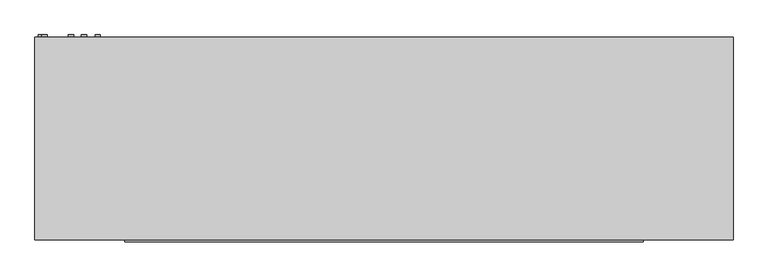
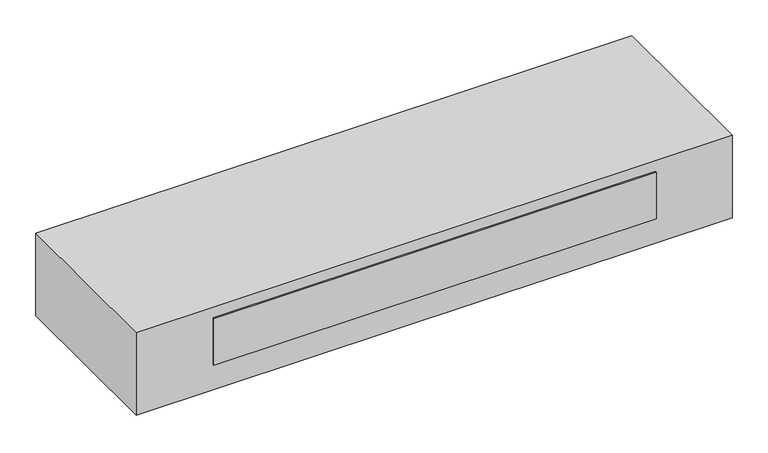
"""IFC4 building model written with IfcOpenShell, lengths in millimetres: proxy geometry, Exposed_Horizontal_Fan_Coil_Unit_-_42CGB_-_CARRIER_-_4-Pipe_FS-BR_LH_2022 : Size 12 - 277v/60Hz/1Ph - 4/1 Coil."""

from ifc_helpers import new_model, si_unit, point, frame, frame_2d, origin, place, context, project, spatial, polyline, circle_curve, trimmed, segment, composite_curve, outline, extrude, source, transform, mapped, element, save


def mechanical_equipment_ee9fbc93(model_context):
    return source(origin(), model_context, "Body", "SweptSolid", [
        extrude(outline(composite_curve([segment(trimmed(circle_curve(frame_2d((-261.434158, -870.1546393)), 9.525), [point((-261.434158, -860.6296393))], [point((-261.434158, -879.6796393))], False, "CARTESIAN"), True, "CONTINUOUS"), segment(trimmed(circle_curve(frame_2d((-261.434158, -870.1546393)), 9.525), [point((-261.434158, -879.6796393))], [point((-261.434158, -860.6296393))], False, "CARTESIAN"), True, "CONTINUOUS")], self_intersect=False)), frame((0.0, 65.0875, 0.0), z_axis=(0.0, 1.0, 0.0), x_axis=(0.0, 0.0, 1.0)), (0.0, 0.0, 1.0), 6.35),
        extrude(outline(composite_curve([segment(trimmed(circle_curve(frame_2d((-85.725, -860.425)), 7.9375), [point((-85.725, -852.4875))], [point((-85.725, -868.3625))], False, "CARTESIAN"), True, "CONTINUOUS"), segment(trimmed(circle_curve(frame_2d((-85.725, -860.425)), 7.9375), [point((-85.725, -868.3625))], [point((-85.725, -852.4875))], False, "CARTESIAN"), True, "CONTINUOUS")], self_intersect=False)), frame((0.0, 65.0875, 0.0), z_axis=(0.0, 1.0, 0.0), x_axis=(0.0, 0.0, 1.0)), (0.0, 0.0, 1.0), 6.35),
        extrude(outline(composite_curve([segment(trimmed(circle_curve(frame_2d((-44.45, -781.05)), 7.9375), [point((-44.45, -773.1125))], [point((-44.45, -788.9875))], False, "CARTESIAN"), True, "CONTINUOUS"), segment(trimmed(circle_curve(frame_2d((-44.45, -781.05)), 7.9375), [point((-44.45, -788.9875))], [point((-44.45, -773.1125))], False, "CARTESIAN"), True, "CONTINUOUS")], self_intersect=False)), frame((0.0, 65.0875, 0.0), z_axis=(0.0, 1.0, 0.0), x_axis=(0.0, 0.0, 1.0)), (0.0, 0.0, 1.0), 6.35),
        extrude(outline(composite_curve([segment(trimmed(circle_curve(frame_2d((-95.25, -742.95)), 7.9375), [point((-95.25, -735.0125))], [point((-95.25, -750.8875))], False, "CARTESIAN"), True, "CONTINUOUS"), segment(trimmed(circle_curve(frame_2d((-95.25, -742.95)), 7.9375), [point((-95.25, -750.8875))], [point((-95.25, -735.0125))], False, "CARTESIAN"), True, "CONTINUOUS")], self_intersect=False)), frame((0.0, 65.0875, 0.0), z_axis=(0.0, 1.0, 0.0), x_axis=(0.0, 0.0, 1.0)), (0.0, 0.0, 1.0), 6.35),
        extrude(outline(composite_curve([segment(trimmed(circle_curve(frame_2d((-60.325, -701.675)), 7.9375), [point((-60.325, -693.7375))], [point((-60.325, -709.6125))], False, "CARTESIAN"), True, "CONTINUOUS"), segment(trimmed(circle_curve(frame_2d((-60.325, -701.675)), 7.9375), [point((-60.325, -709.6125))], [point((-60.325, -693.7375))], False, "CARTESIAN"), True, "CONTINUOUS")], self_intersect=False)), frame((0.0, 65.0875, 0.0), z_axis=(0.0, 1.0, 0.0), x_axis=(0.0, 0.0, 1.0)), (0.0, 0.0, 1.0), 6.35),
        extrude(outline(polyline([(-889.0, 65.0875), (1193.8, 65.0875), (1193.8, -541.3375), (-889.0, -541.3375), (-889.0, 65.0875)])), frame((0.0, 0.0, -304.8), z_axis=(0.0, 0.0, 1.0), x_axis=(1.0, 0.0, 0.0)), (0.0, 0.0, 1.0), 304.8),
        extrude(outline(polyline([(925.5125, -547.6875), (-620.7125, -547.6875), (-620.7125, -541.3375), (925.5125, -541.3375), (925.5125, -547.6875)])), frame((0.0, 0.0, -209.55), z_axis=(0.0, 0.0, 1.0), x_axis=(1.0, 0.0, 0.0)), (0.0, 0.0, 1.0), 171.45),
        extrude(outline(polyline([(952.5, -11.1125), (952.5, -265.1125), (-647.7, -265.1125), (-647.7, -11.1125), (952.5, -11.1125)])), frame((0.0, 0.0, -311.15), z_axis=(0.0, 0.0, 1.0), x_axis=(1.0, 0.0, 0.0)), (0.0, 0.0, 1.0), 6.35),
    ])


if __name__ == "__main__":
    model = new_model("IFC4")
    model_context = context("Model", 3, world=origin())
    ifc_project = project(units=[si_unit("LENGTHUNIT", "METRE", prefix="MILLI")], contexts=[model_context])
    site = spatial("IfcSite", under=ifc_project)
    building = spatial("IfcBuilding", under=site)
    placement = place(None, origin())
    mechanical_equipment_shape = mechanical_equipment_ee9fbc93(model_context)
    element("IfcBuildingElementProxy", 1, Name="Exposed_Horizontal_Fan_Coil_Unit_-_42CGB_-_CARRIER_-_4-Pipe_FS-BR_LH_2022 : Size 12 - 277v/60Hz/1Ph - 4/1 Coil", ObjectType="Exposed_Horizontal_Fan_Coil_Unit_-_42CGB_-_CARRIER_-_4-Pipe_FS-BR_LH_2022 : Size 12 - 277v/60Hz/1Ph - 4/1 Coil", at=placement, inside=building, context=model_context, shape_type="MappedRepresentation", body=[
        mapped(mechanical_equipment_shape, transform((0.0, 0.0, 0.0), x_axis=(1.0, 0.0, 0.0), y_axis=(0.0, 1.0, 0.0), z_axis=(0.0, 0.0, 1.0))),
    ])
    save(model, "model.ifc")
